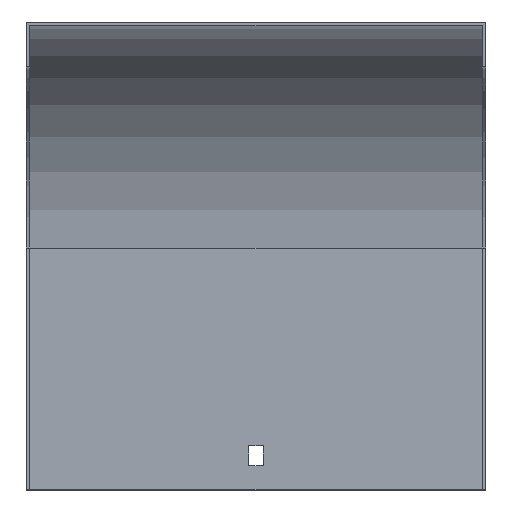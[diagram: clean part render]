
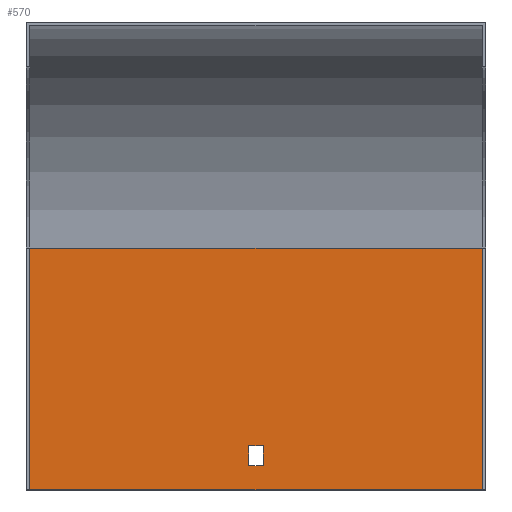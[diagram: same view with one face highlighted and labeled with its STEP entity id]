
A CAD part, top view. The second image highlights one B-rep face of the part: STEP entity #570.
In plain terms, the highlighted planar face has unit normal (0, 0, 1).
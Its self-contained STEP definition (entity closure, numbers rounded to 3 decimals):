
#23 = ORIENTED_EDGE ( 'NONE', *, *, #277, .F. ) ;
#27 = VECTOR ( 'NONE', #566, 1000. ) ;
#35 = CARTESIAN_POINT ( 'NONE',  ( 103.5, -190.5, -209. ) ) ;
#44 = CARTESIAN_POINT ( 'NONE',  ( 102., -210.5, -209. ) ) ;
#72 = ORIENTED_EDGE ( 'NONE', *, *, #848, .T. ) ;
#86 = VERTEX_POINT ( 'NONE', #290 ) ;
#117 = DIRECTION ( 'NONE',  ( 1., 0., 0. ) ) ;
#134 = VECTOR ( 'NONE', #169, 1000. ) ;
#144 = EDGE_LOOP ( 'NONE', ( #677, #23, #72, #622 ) ) ;
#149 = DIRECTION ( 'NONE',  ( 0., 1., 0. ) ) ;
#169 = DIRECTION ( 'NONE',  ( 0., -1., 0. ) ) ;
#186 = CARTESIAN_POINT ( 'NONE',  ( -3.25, -101.5, -209. ) ) ;
#201 = ORIENTED_EDGE ( 'NONE', *, *, #275, .T. ) ;
#206 = EDGE_CURVE ( 'NONE', #86, #696, #291, .T. ) ;
#236 = VECTOR ( 'NONE', #783, 1000. ) ;
#246 = DIRECTION ( 'NONE',  ( 0., 0., 1. ) ) ;
#263 = CARTESIAN_POINT ( 'NONE',  ( 103.5, -101.5, -209. ) ) ;
#275 = EDGE_CURVE ( 'NONE', #737, #582, #316, .T. ) ;
#277 = EDGE_CURVE ( 'NONE', #719, #86, #595, .T. ) ;
#283 = VECTOR ( 'NONE', #149, 1000. ) ;
#288 = LINE ( 'NONE', #562, #27 ) ;
#290 = CARTESIAN_POINT ( 'NONE',  ( -102., -210.5, -209. ) ) ;
#291 = LINE ( 'NONE', #757, #283 ) ;
#314 = LINE ( 'NONE', #35, #418 ) ;
#316 = LINE ( 'NONE', #186, #402 ) ;
#322 = EDGE_LOOP ( 'NONE', ( #405, #201, #652, #478 ) ) ;
#329 = FACE_BOUND ( 'NONE', #322, .T. ) ;
#348 = EDGE_CURVE ( 'NONE', #616, #737, #288, .T. ) ;
#360 = LINE ( 'NONE', #663, #706 ) ;
#402 = VECTOR ( 'NONE', #642, 1000. ) ;
#405 = ORIENTED_EDGE ( 'NONE', *, *, #348, .T. ) ;
#418 = VECTOR ( 'NONE', #117, 1000. ) ;
#441 = CARTESIAN_POINT ( 'NONE',  ( 103.5, -101.5, -209. ) ) ;
#450 = CARTESIAN_POINT ( 'NONE',  ( 3.25, -101.5, -209. ) ) ;
#478 = ORIENTED_EDGE ( 'NONE', *, *, #495, .T. ) ;
#495 = EDGE_CURVE ( 'NONE', #501, #616, #704, .T. ) ;
#501 = VERTEX_POINT ( 'NONE', #826 ) ;
#504 = CARTESIAN_POINT ( 'NONE',  ( 3.25, -199.5, -209. ) ) ;
#516 = PLANE ( 'NONE',  #605 ) ;
#517 = CARTESIAN_POINT ( 'NONE',  ( -102., -101.5, -209. ) ) ;
#518 = CARTESIAN_POINT ( 'NONE',  ( 103.5, -210.5, -209. ) ) ;
#530 = EDGE_CURVE ( 'NONE', #603, #696, #711, .T. ) ;
#532 = CARTESIAN_POINT ( 'NONE',  ( -3.25, -199.5, -209. ) ) ;
#539 = DIRECTION ( 'NONE',  ( 1., 0., 0. ) ) ;
#562 = CARTESIAN_POINT ( 'NONE',  ( 103.5, -199.5, -209. ) ) ;
#566 = DIRECTION ( 'NONE',  ( -1., 0., 0. ) ) ;
#570 = ADVANCED_FACE ( 'NONE', ( #735, #329 ), #516, .T. ) ;
#582 = VERTEX_POINT ( 'NONE', #794 ) ;
#595 = LINE ( 'NONE', #518, #236 ) ;
#603 = VERTEX_POINT ( 'NONE', #645 ) ;
#605 = AXIS2_PLACEMENT_3D ( 'NONE', #263, #246, #539 ) ;
#616 = VERTEX_POINT ( 'NONE', #504 ) ;
#622 = ORIENTED_EDGE ( 'NONE', *, *, #530, .T. ) ;
#642 = DIRECTION ( 'NONE',  ( 0., 1., 0. ) ) ;
#645 = CARTESIAN_POINT ( 'NONE',  ( 102., -101.5, -209. ) ) ;
#652 = ORIENTED_EDGE ( 'NONE', *, *, #694, .T. ) ;
#663 = CARTESIAN_POINT ( 'NONE',  ( 102., -101.5, -209. ) ) ;
#677 = ORIENTED_EDGE ( 'NONE', *, *, #206, .F. ) ;
#694 = EDGE_CURVE ( 'NONE', #582, #501, #314, .T. ) ;
#696 = VERTEX_POINT ( 'NONE', #517 ) ;
#704 = LINE ( 'NONE', #450, #134 ) ;
#706 = VECTOR ( 'NONE', #860, 1000. ) ;
#711 = LINE ( 'NONE', #441, #782 ) ;
#719 = VERTEX_POINT ( 'NONE', #44 ) ;
#735 = FACE_OUTER_BOUND ( 'NONE', #144, .T. ) ;
#737 = VERTEX_POINT ( 'NONE', #532 ) ;
#757 = CARTESIAN_POINT ( 'NONE',  ( -102., -101.5, -209. ) ) ;
#782 = VECTOR ( 'NONE', #831, 1000. ) ;
#783 = DIRECTION ( 'NONE',  ( -1., 0., 0. ) ) ;
#794 = CARTESIAN_POINT ( 'NONE',  ( -3.25, -190.5, -209. ) ) ;
#826 = CARTESIAN_POINT ( 'NONE',  ( 3.25, -190.5, -209. ) ) ;
#831 = DIRECTION ( 'NONE',  ( -1., 0., 0. ) ) ;
#848 = EDGE_CURVE ( 'NONE', #719, #603, #360, .T. ) ;
#860 = DIRECTION ( 'NONE',  ( 0., 1., 0. ) ) ;
